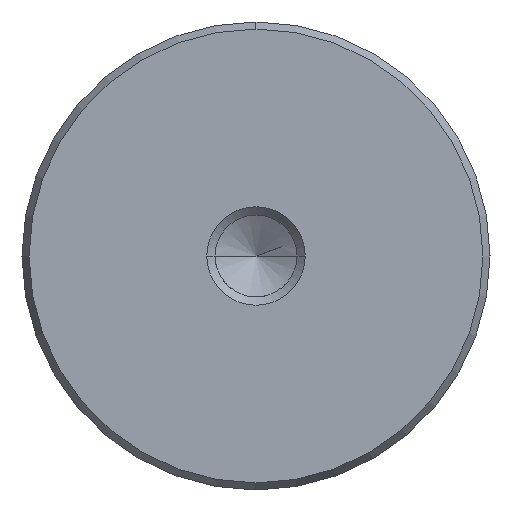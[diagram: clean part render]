
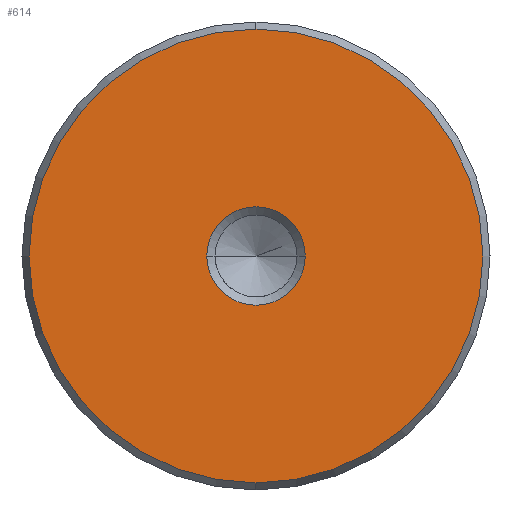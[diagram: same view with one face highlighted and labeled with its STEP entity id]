
A CAD part, left-side view. The second image highlights one B-rep face of the part: STEP entity #614.
In plain terms, the highlighted planar face has unit normal (-1, 0, 0).
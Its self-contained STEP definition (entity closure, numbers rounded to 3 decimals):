
#528=CARTESIAN_POINT('Vertex',(0.,0.,-18.423)) ;
#531=CARTESIAN_POINT('Axis2P3D Location',(0.,0.,0.)) ;
#535=CARTESIAN_POINT('Vertex',(0.,18.423,0.)) ;
#538=CARTESIAN_POINT('Axis2P3D Location',(0.,0.,0.)) ;
#542=CARTESIAN_POINT('Vertex',(0.,0.,18.423)) ;
#564=CARTESIAN_POINT('Axis2P3D Location',(0.,0.,0.)) ;
#568=CARTESIAN_POINT('Vertex',(0.,-18.423,0.)) ;
#571=CARTESIAN_POINT('Axis2P3D Location',(0.,0.,0.)) ;
#585=CARTESIAN_POINT('Axis2P3D Location',(0.,0.,0.)) ;
#596=CARTESIAN_POINT('Axis2P3D Location',(0.,0.,0.)) ;
#600=CARTESIAN_POINT('Vertex',(0.,4.,0.)) ;
#602=CARTESIAN_POINT('Vertex',(0.,-4.,0.)) ;
#605=CARTESIAN_POINT('Axis2P3D Location',(0.,0.,0.)) ;
#532=DIRECTION('Axis2P3D Direction',(1.,0.,-0.)) ;
#539=DIRECTION('Axis2P3D Direction',(1.,0.,-0.)) ;
#565=DIRECTION('Axis2P3D Direction',(1.,0.,-0.)) ;
#572=DIRECTION('Axis2P3D Direction',(1.,0.,-0.)) ;
#586=DIRECTION('Axis2P3D Direction',(1.,0.,-0.)) ;
#587=DIRECTION('Axis2P3D XDirection',(-0.,0.,-1.)) ;
#597=DIRECTION('Axis2P3D Direction',(1.,0.,-0.)) ;
#606=DIRECTION('Axis2P3D Direction',(1.,0.,-0.)) ;
#533=AXIS2_PLACEMENT_3D('Circle Axis2P3D',#531,#532,$) ;
#540=AXIS2_PLACEMENT_3D('Circle Axis2P3D',#538,#539,$) ;
#566=AXIS2_PLACEMENT_3D('Circle Axis2P3D',#564,#565,$) ;
#573=AXIS2_PLACEMENT_3D('Circle Axis2P3D',#571,#572,$) ;
#588=AXIS2_PLACEMENT_3D('Plane Axis2P3D',#585,#586,#587) ;
#598=AXIS2_PLACEMENT_3D('Circle Axis2P3D',#596,#597,$) ;
#607=AXIS2_PLACEMENT_3D('Circle Axis2P3D',#605,#606,$) ;
#591=ORIENTED_EDGE('',*,*,#537,.F.) ;
#592=ORIENTED_EDGE('',*,*,#575,.F.) ;
#593=ORIENTED_EDGE('',*,*,#570,.F.) ;
#594=ORIENTED_EDGE('',*,*,#544,.F.) ;
#611=ORIENTED_EDGE('',*,*,#604,.T.) ;
#612=ORIENTED_EDGE('',*,*,#609,.T.) ;
#613=FACE_BOUND('',#610,.T.) ;
#614=ADVANCED_FACE('720-38x180',(#595,#613),#589,.F.) ;
#534=CIRCLE('generated circle',#533,18.423) ;
#541=CIRCLE('generated circle',#540,18.423) ;
#567=CIRCLE('generated circle',#566,18.423) ;
#574=CIRCLE('generated circle',#573,18.423) ;
#599=CIRCLE('generated circle',#598,4.) ;
#608=CIRCLE('generated circle',#607,4.) ;
#537=EDGE_CURVE('',#529,#536,#534,.T.) ;
#544=EDGE_CURVE('',#536,#543,#541,.T.) ;
#570=EDGE_CURVE('',#543,#569,#567,.T.) ;
#575=EDGE_CURVE('',#569,#529,#574,.T.) ;
#604=EDGE_CURVE('',#601,#603,#599,.T.) ;
#609=EDGE_CURVE('',#603,#601,#608,.T.) ;
#590=EDGE_LOOP('',(#591,#592,#593,#594)) ;
#610=EDGE_LOOP('',(#611,#612)) ;
#595=FACE_OUTER_BOUND('',#590,.T.) ;
#589=PLANE('Plane',#588) ;
#529=VERTEX_POINT('',#528) ;
#536=VERTEX_POINT('',#535) ;
#543=VERTEX_POINT('',#542) ;
#569=VERTEX_POINT('',#568) ;
#601=VERTEX_POINT('',#600) ;
#603=VERTEX_POINT('',#602) ;
